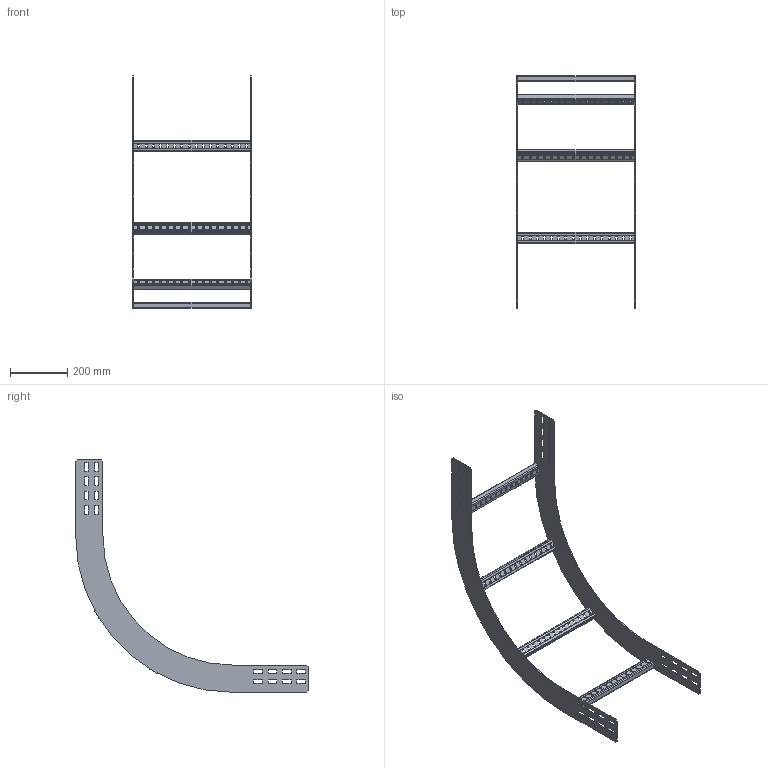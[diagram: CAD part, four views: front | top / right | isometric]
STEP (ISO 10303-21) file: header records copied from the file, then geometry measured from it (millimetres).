
FILE_DESCRIPTION(('Creo Elements/Direct Modeling STEP Export'),'2;1');
FILE_NAME('WPIR10-40-90-45.stp','2016-06-01T14:45:40',(''),(''),'PTC Creo Elements/Direct Modeling STEP processor for AP214 (Solid Model)','PTC Creo Elements/Direct Modeling 19.0C 15-Aug-2015 (C) Parametric Technology GmbH','');
FILE_SCHEMA(('AUTOMOTIVE_DESIGN { 1 0 10303 214 1 1 1 1 }'));
Length unit declared in the file: millimetre
Products named in the file (3): WPIBG100_450; WPHBS40; WPIR10-40-90-45
Assembly tree (6 placements, depth 2):
  WPIR10-40-90-45
    WPHBS40  x4
    WPIBG100_450  x2
Bounding box: 411 x 810 x 810 mm (x, y, z)
Volume: 950568 mm3; surface area: 826105.9 mm2
Topology: 6 solids, 6 shells, 572 faces, 1680 edges, 1120 vertices
Faces by surface type: plane 368, cylinder 204
Entity records: 6252 total; most frequent: CARTESIAN_POINT 1078, ORIENTED_EDGE 1068, DIRECTION 1014, EDGE_CURVE 534, VECTOR 430, LINE 430, VERTEX_POINT 356, AXIS2_PLACEMENT_3D 292
